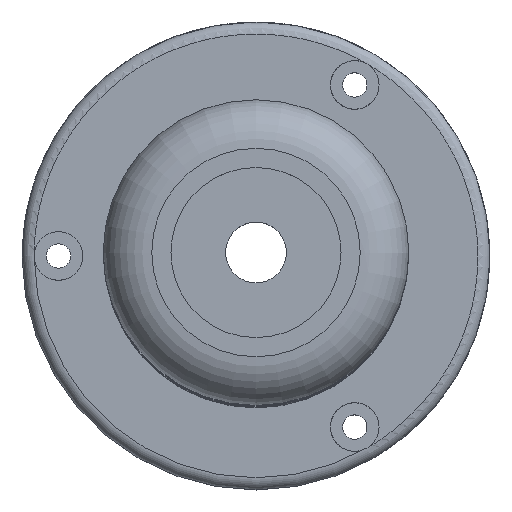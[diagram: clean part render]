
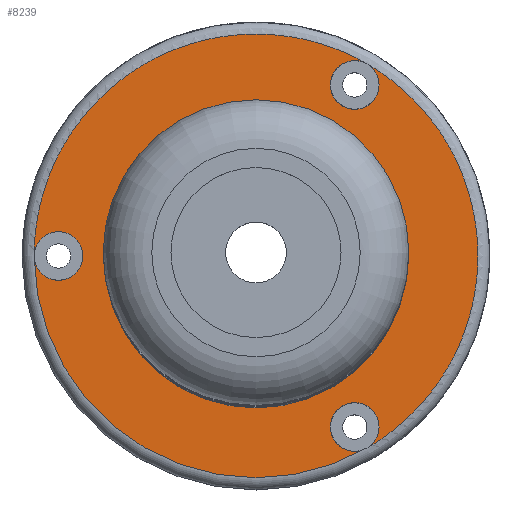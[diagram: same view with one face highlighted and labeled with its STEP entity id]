
A CAD part, top view. The second image highlights one B-rep face of the part: STEP entity #8239.
In plain terms, the highlighted planar face has unit normal (0, 0, -1).
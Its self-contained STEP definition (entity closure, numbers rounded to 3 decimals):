
#6208=PLANE('',#27789);
#7332=FACE_BOUND('',#11493,.T.);
#7333=FACE_BOUND('',#11494,.T.);
#7334=FACE_BOUND('',#11495,.T.);
#7335=FACE_BOUND('',#11496,.T.);
#7336=FACE_BOUND('',#11497,.T.);
#8239=ADVANCED_FACE('',(#7332,#7333,#7334,#7335,#7336),#6208,.T.);
#11493=EDGE_LOOP('',(#15462));
#11494=EDGE_LOOP('',(#15463));
#11495=EDGE_LOOP('',(#15464));
#11496=EDGE_LOOP('',(#15465));
#11497=EDGE_LOOP('',(#15466));
#12831=CIRCLE('',#27773,10.75);
#12839=CIRCLE('',#27785,2.);
#12840=CIRCLE('',#27786,2.);
#12841=CIRCLE('',#27787,2.);
#12842=CIRCLE('',#27788,38.);
#15462=ORIENTED_EDGE('',*,*,#24043,.T.);
#15463=ORIENTED_EDGE('',*,*,#24044,.T.);
#15464=ORIENTED_EDGE('',*,*,#24045,.T.);
#15465=ORIENTED_EDGE('',*,*,#24046,.T.);
#15466=ORIENTED_EDGE('',*,*,#24033,.F.);
#21143=VERTEX_POINT('',#49779);
#21153=VERTEX_POINT('',#49933);
#21154=VERTEX_POINT('',#49935);
#21155=VERTEX_POINT('',#49937);
#21156=VERTEX_POINT('',#49939);
#24033=EDGE_CURVE('',#21143,#21143,#12831,.T.);
#24043=EDGE_CURVE('',#21153,#21153,#12839,.T.);
#24044=EDGE_CURVE('',#21154,#21154,#12840,.T.);
#24045=EDGE_CURVE('',#21155,#21155,#12841,.T.);
#24046=EDGE_CURVE('',#21156,#21156,#12842,.T.);
#27773=AXIS2_PLACEMENT_3D('',#49778,#30967,#30968);
#27785=AXIS2_PLACEMENT_3D('',#49932,#30991,#30992);
#27786=AXIS2_PLACEMENT_3D('',#49934,#30993,#30994);
#27787=AXIS2_PLACEMENT_3D('',#49936,#30995,#30996);
#27788=AXIS2_PLACEMENT_3D('',#49938,#30997,#30998);
#27789=AXIS2_PLACEMENT_3D('',#49940,#30999,#31000);
#30967=DIRECTION('',(0.,0.,-1.));
#30968=DIRECTION('',(-1.,0.,0.));
#30991=DIRECTION('',(0.,0.,1.));
#30992=DIRECTION('',(1.,0.,0.));
#30993=DIRECTION('',(0.,0.,1.));
#30994=DIRECTION('',(1.,0.,0.));
#30995=DIRECTION('',(0.,0.,1.));
#30996=DIRECTION('',(1.,0.,0.));
#30997=DIRECTION('',(0.,0.,-1.));
#30998=DIRECTION('',(-1.,0.,0.));
#30999=DIRECTION('',(0.,0.,-1.));
#31000=DIRECTION('',(1.,0.,0.));
#49778=CARTESIAN_POINT('',(200.,-200.,-167.702));
#49779=CARTESIAN_POINT('',(189.25,-200.,-167.702));
#49932=CARTESIAN_POINT('',(216.25,-171.854,-167.702));
#49933=CARTESIAN_POINT('',(218.25,-171.854,-167.702));
#49934=CARTESIAN_POINT('',(216.25,-228.146,-167.702));
#49935=CARTESIAN_POINT('',(218.25,-228.146,-167.702));
#49936=CARTESIAN_POINT('',(167.5,-200.,-167.702));
#49937=CARTESIAN_POINT('',(169.5,-200.,-167.702));
#49938=CARTESIAN_POINT('',(200.,-200.,-167.702));
#49939=CARTESIAN_POINT('',(162.,-200.,-167.702));
#49940=CARTESIAN_POINT('',(200.,-200.,-167.702));
